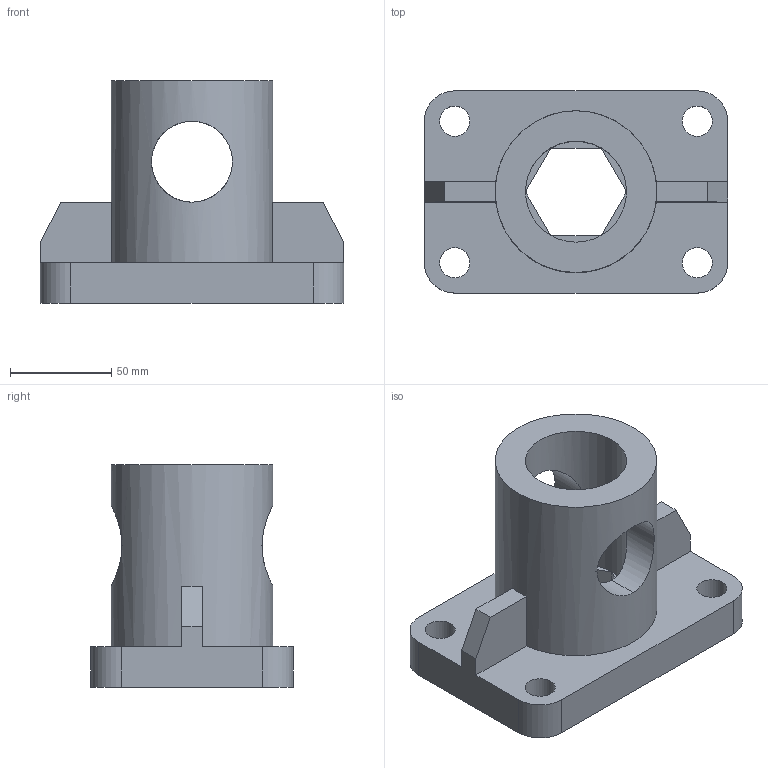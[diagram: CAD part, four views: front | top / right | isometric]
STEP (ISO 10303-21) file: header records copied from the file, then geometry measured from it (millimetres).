
FILE_DESCRIPTION(('TFLEX Exchange Step'),'2;1');
FILE_NAME('X2\041A043E0440043F04430441\X0\ вар 12.stp', '2025-06-24T11:16:12+03:00',('alymo'),('Unknown organisation'),'TFLEX Exchange 2023.0','T-FLEX CAD','Unknown authorisation');
FILE_SCHEMA( ('AUTOMOTIVE_DESIGN { 1 0 10303 214 1 1 1 1 }') );
Length unit declared in the file: millimetre
Products named in the file (1): Nodes
Bounding box: 150 x 100 x 110 mm (x, y, z)
Volume: 507663.3 mm3; surface area: 80475 mm2
Topology: 1 solids, 1 shells, 42 faces, 116 edges, 76 vertices
Faces by surface type: plane 28, cylinder 14
Full cylindrical faces by diameter (mm): 15 x4, 50 x1, 80 x1
Entity records: 3074 total; most frequent: CARTESIAN_POINT 1927, DIRECTION 232, ORIENTED_EDGE 232, EDGE_CURVE 116, AXIS2_PLACEMENT_3D 81, VERTEX_POINT 76, VECTOR 70, LINE 70
